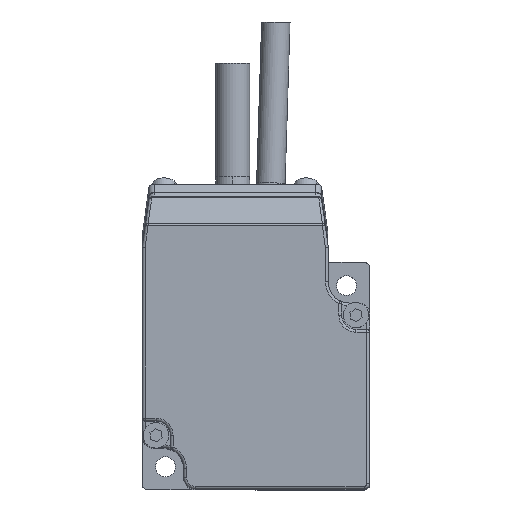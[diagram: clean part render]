
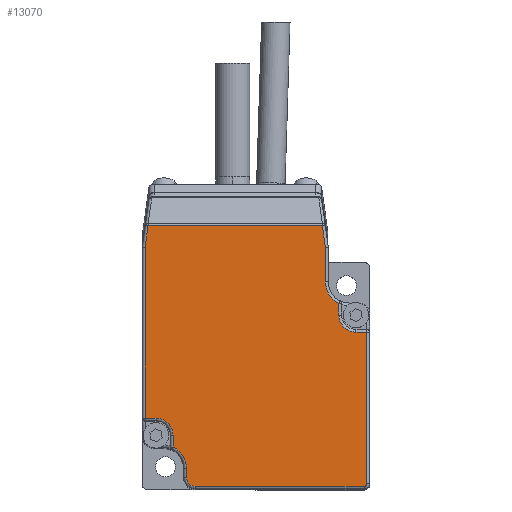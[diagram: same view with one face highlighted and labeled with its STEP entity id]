
A CAD part, top view. The second image highlights one B-rep face of the part: STEP entity #13070.
In plain terms, the highlighted planar face has unit normal (0, 0, 1).
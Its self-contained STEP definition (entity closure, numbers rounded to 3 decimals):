
#109 = AXIS2_PLACEMENT_3D ( 'NONE', #17145, #7279, #11102 ) ;
#250 = EDGE_CURVE ( 'NONE', #20104, #11593, #7427, .T. ) ;
#295 = ORIENTED_EDGE ( 'NONE', *, *, #25786, .T. ) ;
#297 = CARTESIAN_POINT ( 'NONE',  ( 12.2, 22.465, 80.9 ) ) ;
#316 = CARTESIAN_POINT ( 'NONE',  ( 14.572, -19., 80.9 ) ) ;
#849 = CARTESIAN_POINT ( 'NONE',  ( -19.438, 26.293, 80.9 ) ) ;
#1234 = CARTESIAN_POINT ( 'NONE',  ( 19., -19.5, 80.9 ) ) ;
#1422 = ORIENTED_EDGE ( 'NONE', *, *, #8962, .T. ) ;
#1540 = CARTESIAN_POINT ( 'NONE',  ( 11.662, 26.293, 80.9 ) ) ;
#1549 = CARTESIAN_POINT ( 'NONE',  ( 17.572, 10.558, 80.9 ) ) ;
#1861 = VECTOR ( 'NONE', #10096, 1000. ) ;
#1900 = DIRECTION ( 'NONE',  ( 0., -1., 0. ) ) ;
#2229 = ORIENTED_EDGE ( 'NONE', *, *, #3045, .T. ) ;
#2401 = DIRECTION ( 'NONE',  ( 1., 0., 0. ) ) ;
#2403 = LINE ( 'NONE', #14332, #23655 ) ;
#2570 = VERTEX_POINT ( 'NONE', #10669 ) ;
#2588 = CARTESIAN_POINT ( 'NONE',  ( -17.572, -7.558, 80.9 ) ) ;
#2675 = VERTEX_POINT ( 'NONE', #25155 ) ;
#2751 = PLANE ( 'NONE',  #109 ) ;
#2974 = CARTESIAN_POINT ( 'NONE',  ( 19., -19., 80.9 ) ) ;
#3032 = CIRCLE ( 'NONE', #7437, 1.5 ) ;
#3045 = EDGE_CURVE ( 'NONE', #20195, #5193, #2403, .T. ) ;
#3354 = VECTOR ( 'NONE', #20740, 1000. ) ;
#3464 = EDGE_CURVE ( 'NONE', #23194, #20104, #5057, .T. ) ;
#3938 = EDGE_CURVE ( 'NONE', #16332, #22030, #5713, .T. ) ;
#3981 = ORIENTED_EDGE ( 'NONE', *, *, #15062, .T. ) ;
#4211 = CARTESIAN_POINT ( 'NONE',  ( -19.505, 22.43, 80.9 ) ) ;
#4242 = CARTESIAN_POINT ( 'NONE',  ( 11.643, 26.43, 80.9 ) ) ;
#4280 = EDGE_CURVE ( 'NONE', #2570, #26311, #4364, .T. ) ;
#4364 = LINE ( 'NONE', #6073, #21387 ) ;
#4596 = DIRECTION ( 'NONE',  ( 1., 0., 0. ) ) ;
#4694 = DIRECTION ( 'NONE',  ( 1., 0., 0. ) ) ;
#4821 = VERTEX_POINT ( 'NONE', #11943 ) ;
#5057 = LINE ( 'NONE', #10932, #5709 ) ;
#5193 = VERTEX_POINT ( 'NONE', #9955 ) ;
#5709 = VECTOR ( 'NONE', #17390, 1000. ) ;
#5713 = LINE ( 'NONE', #14949, #12731 ) ;
#5813 = EDGE_CURVE ( 'NONE', #21013, #20195, #11348, .T. ) ;
#5902 = EDGE_CURVE ( 'NONE', #2675, #21013, #25180, .T. ) ;
#5987 = DIRECTION ( 'NONE',  ( 0., 1., 0. ) ) ;
#6073 = CARTESIAN_POINT ( 'NONE',  ( 12.2, 22.5, 80.9 ) ) ;
#6231 = EDGE_CURVE ( 'NONE', #7697, #23194, #9090, .T. ) ;
#6335 = CARTESIAN_POINT ( 'NONE',  ( 16.4, 16.4, 80.9 ) ) ;
#6492 = DIRECTION ( 'NONE',  ( 0., 1., 0. ) ) ;
#7078 = CARTESIAN_POINT ( 'NONE',  ( -12.2, -16.4, 80.9 ) ) ;
#7243 = VERTEX_POINT ( 'NONE', #11715 ) ;
#7279 = DIRECTION ( 'NONE',  ( 0., 0., 1. ) ) ;
#7427 = LINE ( 'NONE', #20477, #8086 ) ;
#7437 = AXIS2_PLACEMENT_3D ( 'NONE', #20210, #26334, #22026 ) ;
#7697 = VERTEX_POINT ( 'NONE', #1234 ) ;
#7708 = DIRECTION ( 'NONE',  ( 1., 0., 0. ) ) ;
#7781 = ORIENTED_EDGE ( 'NONE', *, *, #8292, .T. ) ;
#7803 = CARTESIAN_POINT ( 'NONE',  ( -16.4, -16.4, 80.9 ) ) ;
#7956 = ORIENTED_EDGE ( 'NONE', *, *, #5813, .T. ) ;
#8069 = CARTESIAN_POINT ( 'NONE',  ( -14.572, -19., 80.9 ) ) ;
#8086 = VECTOR ( 'NONE', #14349, 1000. ) ;
#8287 = AXIS2_PLACEMENT_3D ( 'NONE', #2974, #14932, #17336 ) ;
#8292 = EDGE_CURVE ( 'NONE', #7243, #4821, #12508, .T. ) ;
#8472 = ORIENTED_EDGE ( 'NONE', *, *, #5902, .T. ) ;
#8777 = LINE ( 'NONE', #4242, #25187 ) ;
#8962 = EDGE_CURVE ( 'NONE', #24565, #2675, #9901, .T. ) ;
#9059 = ORIENTED_EDGE ( 'NONE', *, *, #25642, .T. ) ;
#9090 = CIRCLE ( 'NONE', #8287, 0.5 ) ;
#9425 = EDGE_LOOP ( 'NONE', ( #13359, #7781, #295, #19977, #24963, #24501, #3981, #12229, #18997, #1422, #8472, #7956, #2229, #13253, #9059, #10045, #24884, #9807 ) ) ;
#9613 = VERTEX_POINT ( 'NONE', #17875 ) ;
#9625 = VECTOR ( 'NONE', #6492, 1000. ) ;
#9667 = AXIS2_PLACEMENT_3D ( 'NONE', #1549, #22155, #7708 ) ;
#9668 = DIRECTION ( 'NONE',  ( 1., 0., 0. ) ) ;
#9807 = ORIENTED_EDGE ( 'NONE', *, *, #250, .T. ) ;
#9901 = CIRCLE ( 'NONE', #18148, 3. ) ;
#9955 = CARTESIAN_POINT ( 'NONE',  ( -12.2, -18., 80.9 ) ) ;
#10045 = ORIENTED_EDGE ( 'NONE', *, *, #6231, .T. ) ;
#10096 = DIRECTION ( 'NONE',  ( 1., 0., 0. ) ) ;
#10309 = VERTEX_POINT ( 'NONE', #1540 ) ;
#10535 = DIRECTION ( 'NONE',  ( 0., 0., -1. ) ) ;
#10550 = LINE ( 'NONE', #26200, #1861 ) ;
#10669 = CARTESIAN_POINT ( 'NONE',  ( 12.2, 16.4, 80.9 ) ) ;
#10730 = CARTESIAN_POINT ( 'NONE',  ( 19.5, 7.558, 80.9 ) ) ;
#10932 = CARTESIAN_POINT ( 'NONE',  ( 19.5, 8.058, 80.9 ) ) ;
#11102 = DIRECTION ( 'NONE',  ( 1., 0., 0. ) ) ;
#11348 = CIRCLE ( 'NONE', #26355, 4.2 ) ;
#11593 = VERTEX_POINT ( 'NONE', #13808 ) ;
#11715 = CARTESIAN_POINT ( 'NONE',  ( 14.572, 10.558, 80.9 ) ) ;
#11943 = CARTESIAN_POINT ( 'NONE',  ( 14.572, 12.619, 80.9 ) ) ;
#12229 = ORIENTED_EDGE ( 'NONE', *, *, #3938, .T. ) ;
#12443 = CARTESIAN_POINT ( 'NONE',  ( -10.7, -19.5, 80.9 ) ) ;
#12508 = LINE ( 'NONE', #316, #9625 ) ;
#12731 = VECTOR ( 'NONE', #22974, 1000. ) ;
#13070 = ADVANCED_FACE ( 'NONE', ( #16649 ), #2751, .T. ) ;
#13117 = CIRCLE ( 'NONE', #23314, 4.2 ) ;
#13253 = ORIENTED_EDGE ( 'NONE', *, *, #14973, .T. ) ;
#13359 = ORIENTED_EDGE ( 'NONE', *, *, #16087, .T. ) ;
#13808 = CARTESIAN_POINT ( 'NONE',  ( 17.572, 7.558, 80.9 ) ) ;
#13884 = VECTOR ( 'NONE', #15085, 1000. ) ;
#14250 = DIRECTION ( 'NONE',  ( 0., -1., 0. ) ) ;
#14332 = CARTESIAN_POINT ( 'NONE',  ( -12.2, -18., 80.9 ) ) ;
#14349 = DIRECTION ( 'NONE',  ( -1., 0., 0. ) ) ;
#14932 = DIRECTION ( 'NONE',  ( 0., 0., 1. ) ) ;
#14949 = CARTESIAN_POINT ( 'NONE',  ( -19.5, -8.058, 80.9 ) ) ;
#14973 = EDGE_CURVE ( 'NONE', #5193, #19990, #3032, .T. ) ;
#15062 = EDGE_CURVE ( 'NONE', #9613, #16332, #16854, .T. ) ;
#15085 = DIRECTION ( 'NONE',  ( -1., 0., 0. ) ) ;
#15521 = VECTOR ( 'NONE', #1900, 1000. ) ;
#15735 = EDGE_CURVE ( 'NONE', #10309, #9613, #19071, .T. ) ;
#15762 = DIRECTION ( 'NONE',  ( 0., 0., -1. ) ) ;
#16087 = EDGE_CURVE ( 'NONE', #11593, #7243, #20148, .T. ) ;
#16332 = VERTEX_POINT ( 'NONE', #25090 ) ;
#16649 = FACE_OUTER_BOUND ( 'NONE', #9425, .T. ) ;
#16854 = LINE ( 'NONE', #4211, #3354 ) ;
#16906 = DIRECTION ( 'NONE',  ( 0., 0., -1. ) ) ;
#17145 = CARTESIAN_POINT ( 'NONE',  ( -19., -19., 80.9 ) ) ;
#17336 = DIRECTION ( 'NONE',  ( 1., 0., 0. ) ) ;
#17390 = DIRECTION ( 'NONE',  ( 0., 1., 0. ) ) ;
#17875 = CARTESIAN_POINT ( 'NONE',  ( -18.962, 26.293, 80.9 ) ) ;
#18148 = AXIS2_PLACEMENT_3D ( 'NONE', #19089, #10535, #4694 ) ;
#18997 = ORIENTED_EDGE ( 'NONE', *, *, #19487, .T. ) ;
#19071 = LINE ( 'NONE', #849, #13884 ) ;
#19089 = CARTESIAN_POINT ( 'NONE',  ( -17.572, -10.558, 80.9 ) ) ;
#19291 = VECTOR ( 'NONE', #2401, 1000. ) ;
#19487 = EDGE_CURVE ( 'NONE', #22030, #24565, #22202, .T. ) ;
#19977 = ORIENTED_EDGE ( 'NONE', *, *, #4280, .T. ) ;
#19990 = VERTEX_POINT ( 'NONE', #12443 ) ;
#20104 = VERTEX_POINT ( 'NONE', #10730 ) ;
#20148 = CIRCLE ( 'NONE', #9667, 3. ) ;
#20195 = VERTEX_POINT ( 'NONE', #7078 ) ;
#20210 = CARTESIAN_POINT ( 'NONE',  ( -10.7, -18., 80.9 ) ) ;
#20477 = CARTESIAN_POINT ( 'NONE',  ( 17.572, 7.558, 80.9 ) ) ;
#20740 = DIRECTION ( 'NONE',  ( -0.139, -0.99, 0. ) ) ;
#21013 = VERTEX_POINT ( 'NONE', #26088 ) ;
#21032 = DIRECTION ( 'NONE',  ( -0.139, 0.99, 0. ) ) ;
#21105 = CARTESIAN_POINT ( 'NONE',  ( 19.5, -19., 80.9 ) ) ;
#21387 = VECTOR ( 'NONE', #5987, 1000. ) ;
#21932 = CARTESIAN_POINT ( 'NONE',  ( -17.572, -7.558, 80.9 ) ) ;
#22026 = DIRECTION ( 'NONE',  ( 1., 0., 0. ) ) ;
#22030 = VERTEX_POINT ( 'NONE', #22902 ) ;
#22155 = DIRECTION ( 'NONE',  ( 0., 0., -1. ) ) ;
#22202 = LINE ( 'NONE', #2588, #19291 ) ;
#22902 = CARTESIAN_POINT ( 'NONE',  ( -19.5, -7.558, 80.9 ) ) ;
#22974 = DIRECTION ( 'NONE',  ( 0., -1., 0. ) ) ;
#23175 = EDGE_CURVE ( 'NONE', #26311, #10309, #8777, .T. ) ;
#23194 = VERTEX_POINT ( 'NONE', #21105 ) ;
#23314 = AXIS2_PLACEMENT_3D ( 'NONE', #6335, #16906, #4596 ) ;
#23655 = VECTOR ( 'NONE', #14250, 1000. ) ;
#24501 = ORIENTED_EDGE ( 'NONE', *, *, #15735, .T. ) ;
#24565 = VERTEX_POINT ( 'NONE', #21932 ) ;
#24884 = ORIENTED_EDGE ( 'NONE', *, *, #3464, .T. ) ;
#24963 = ORIENTED_EDGE ( 'NONE', *, *, #23175, .T. ) ;
#25090 = CARTESIAN_POINT ( 'NONE',  ( -19.5, 22.465, 80.9 ) ) ;
#25155 = CARTESIAN_POINT ( 'NONE',  ( -14.572, -10.558, 80.9 ) ) ;
#25180 = LINE ( 'NONE', #8069, #15521 ) ;
#25187 = VECTOR ( 'NONE', #21032, 1000. ) ;
#25642 = EDGE_CURVE ( 'NONE', #19990, #7697, #10550, .T. ) ;
#25786 = EDGE_CURVE ( 'NONE', #4821, #2570, #13117, .T. ) ;
#26088 = CARTESIAN_POINT ( 'NONE',  ( -14.572, -12.619, 80.9 ) ) ;
#26200 = CARTESIAN_POINT ( 'NONE',  ( 19., -19.5, 80.9 ) ) ;
#26311 = VERTEX_POINT ( 'NONE', #297 ) ;
#26334 = DIRECTION ( 'NONE',  ( 0., 0., 1. ) ) ;
#26355 = AXIS2_PLACEMENT_3D ( 'NONE', #7803, #15762, #9668 ) ;
